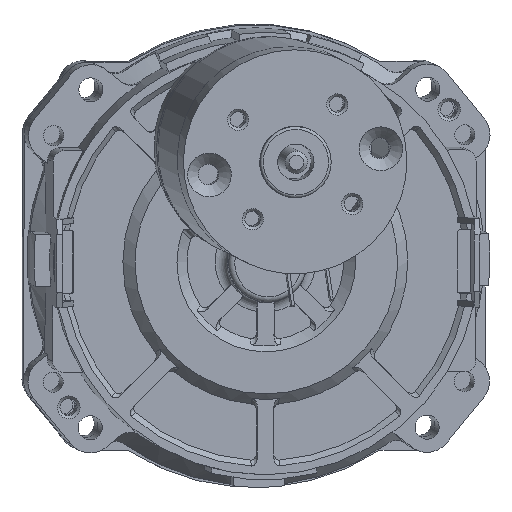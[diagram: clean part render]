
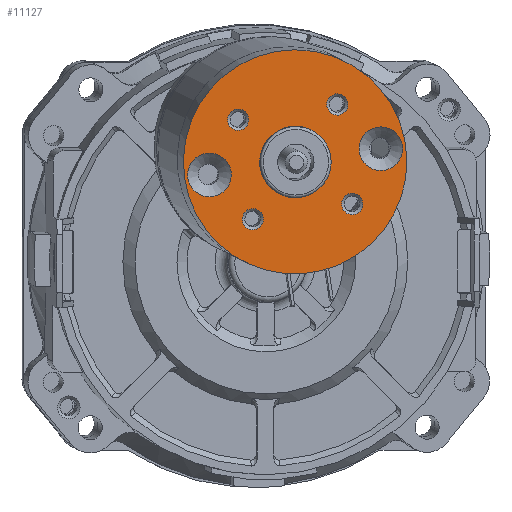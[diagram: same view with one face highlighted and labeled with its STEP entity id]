
A CAD part, top view. The second image highlights one B-rep face of the part: STEP entity #11127.
In plain terms, the highlighted planar face has unit normal (0.085, -0.045, 0.995) as drawn and (0, 0, 1) by its records, which use the part's own axes.
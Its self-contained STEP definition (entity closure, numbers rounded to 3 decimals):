
#658=FACE_BOUND('',#2413,.T.);
#659=FACE_BOUND('',#2414,.T.);
#660=FACE_BOUND('',#2415,.T.);
#661=FACE_BOUND('',#2416,.T.);
#662=FACE_BOUND('',#2417,.T.);
#663=FACE_BOUND('',#2418,.T.);
#664=FACE_BOUND('',#2419,.T.);
#1553=FACE_OUTER_BOUND('',#2412,.T.);
#2412=EDGE_LOOP('',(#10077));
#2413=EDGE_LOOP('',(#10078));
#2414=EDGE_LOOP('',(#10079));
#2415=EDGE_LOOP('',(#10080));
#2416=EDGE_LOOP('',(#10081));
#2417=EDGE_LOOP('',(#10082));
#2418=EDGE_LOOP('',(#10083));
#2419=EDGE_LOOP('',(#10084));
#4387=CIRCLE('',#12327,3.9);
#4390=CIRCLE('',#12332,3.9);
#4394=CIRCLE('',#12338,1.9);
#4395=CIRCLE('',#12340,20.);
#4396=CIRCLE('',#12341,1.9);
#4397=CIRCLE('',#12342,1.9);
#4398=CIRCLE('',#12343,6.35);
#4399=CIRCLE('',#12344,1.9);
#5470=VERTEX_POINT('',#20934);
#5473=VERTEX_POINT('',#20942);
#5477=VERTEX_POINT('',#20952);
#5478=VERTEX_POINT('',#20955);
#5479=VERTEX_POINT('',#20957);
#5480=VERTEX_POINT('',#20959);
#5481=VERTEX_POINT('',#20961);
#5482=VERTEX_POINT('',#20963);
#7015=EDGE_CURVE('',#5470,#5470,#4387,.T.);
#7018=EDGE_CURVE('',#5473,#5473,#4390,.T.);
#7022=EDGE_CURVE('',#5477,#5477,#4394,.T.);
#7023=EDGE_CURVE('',#5478,#5478,#4395,.T.);
#7024=EDGE_CURVE('',#5479,#5479,#4396,.T.);
#7025=EDGE_CURVE('',#5480,#5480,#4397,.T.);
#7026=EDGE_CURVE('',#5481,#5481,#4398,.T.);
#7027=EDGE_CURVE('',#5482,#5482,#4399,.T.);
#10077=ORIENTED_EDGE('',*,*,#7023,.F.);
#10078=ORIENTED_EDGE('',*,*,#7015,.T.);
#10079=ORIENTED_EDGE('',*,*,#7018,.T.);
#10080=ORIENTED_EDGE('',*,*,#7024,.F.);
#10081=ORIENTED_EDGE('',*,*,#7025,.F.);
#10082=ORIENTED_EDGE('',*,*,#7026,.T.);
#10083=ORIENTED_EDGE('',*,*,#7027,.F.);
#10084=ORIENTED_EDGE('',*,*,#7022,.F.);
#10492=PLANE('',#12339);
#11127=ADVANCED_FACE('',(#1553,#658,#659,#660,#661,#662,#663,#664),#10492,
 .F.);
#12327=AXIS2_PLACEMENT_3D('',#20935,#15409,#15410);
#12332=AXIS2_PLACEMENT_3D('',#20943,#15419,#15420);
#12338=AXIS2_PLACEMENT_3D('',#20953,#15431,#15432);
#12339=AXIS2_PLACEMENT_3D('',#20954,#15433,#15434);
#12340=AXIS2_PLACEMENT_3D('',#20956,#15435,#15436);
#12341=AXIS2_PLACEMENT_3D('',#20958,#15437,#15438);
#12342=AXIS2_PLACEMENT_3D('',#20960,#15439,#15440);
#12343=AXIS2_PLACEMENT_3D('',#20962,#15441,#15442);
#12344=AXIS2_PLACEMENT_3D('',#20964,#15443,#15444);
#15409=DIRECTION('center_axis',(0.,0.,-1.));
#15410=DIRECTION('ref_axis',(-1.,0.,0.));
#15419=DIRECTION('center_axis',(0.,0.,-1.));
#15420=DIRECTION('ref_axis',(1.,0.,0.));
#15431=DIRECTION('center_axis',(0.,0.,1.));
#15432=DIRECTION('ref_axis',(0.,-1.,0.));
#15433=DIRECTION('center_axis',(0.,0.,-1.));
#15434=DIRECTION('ref_axis',(-1.,0.,0.));
#15435=DIRECTION('center_axis',(0.,0.,-1.));
#15436=DIRECTION('ref_axis',(-1.,0.,0.));
#15437=DIRECTION('center_axis',(0.,0.,1.));
#15438=DIRECTION('ref_axis',(1.,0.,0.));
#15439=DIRECTION('center_axis',(0.,0.,1.));
#15440=DIRECTION('ref_axis',(-1.,0.,0.));
#15441=DIRECTION('center_axis',(0.,0.,-1.));
#15442=DIRECTION('ref_axis',(-1.,0.,0.));
#15443=DIRECTION('center_axis',(0.,0.,1.));
#15444=DIRECTION('ref_axis',(0.,1.,0.));
#20934=CARTESIAN_POINT('',(-19.4,0.,12.6));
#20935=CARTESIAN_POINT('Origin',(-15.5,0.,12.6));
#20942=CARTESIAN_POINT('',(19.4,0.,12.6));
#20943=CARTESIAN_POINT('Origin',(15.5,0.,12.6));
#20952=CARTESIAN_POINT('',(-8.98,10.88,12.6));
#20953=CARTESIAN_POINT('Origin',(-8.98,8.98,12.6));
#20954=CARTESIAN_POINT('Origin',(0.,0.,12.6));
#20955=CARTESIAN_POINT('',(20.,0.,12.6));
#20956=CARTESIAN_POINT('Origin',(0.,0.,12.6));
#20957=CARTESIAN_POINT('',(-10.88,-8.98,12.6));
#20958=CARTESIAN_POINT('Origin',(-8.98,-8.98,12.6));
#20959=CARTESIAN_POINT('',(10.88,8.98,12.6));
#20960=CARTESIAN_POINT('Origin',(8.98,8.98,12.6));
#20961=CARTESIAN_POINT('',(6.35,0.,12.6));
#20962=CARTESIAN_POINT('Origin',(0.,0.,12.6));
#20963=CARTESIAN_POINT('',(8.98,-10.88,12.6));
#20964=CARTESIAN_POINT('Origin',(8.98,-8.98,12.6));
